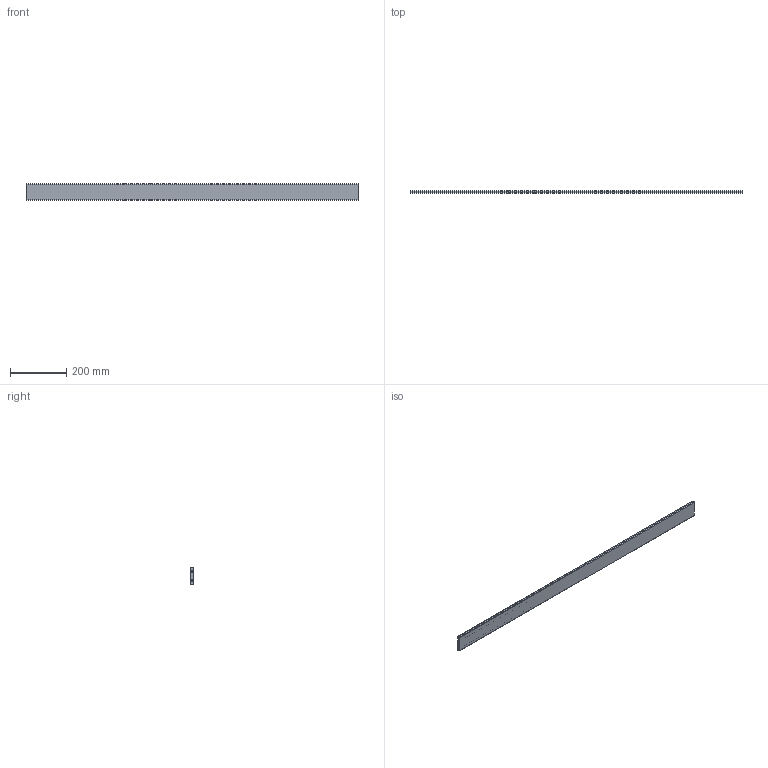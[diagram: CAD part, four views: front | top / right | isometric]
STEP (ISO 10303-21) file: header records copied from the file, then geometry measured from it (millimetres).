
FILE_DESCRIPTION (( 'STEP AP214' ), '1' );
FILE_NAME ('Korpusseitenwand 15-19 - KAB 1327.step', '2016-10-14T06:33:55', ( 'Windows-Benutzer' ), ( '' ), 'SwSTEP 2.0', 'SolidWorks 2015', '' );
FILE_SCHEMA (( 'AUTOMOTIVE_DESIGN' ));
Length unit declared in the file: millimetre
Products named in the file (1): Korpusseitenwand 15-19 - KAB 1327
Bounding box: 1185 x 9.8 x 59.8 mm (x, y, z)
Volume: 627771.3 mm3; surface area: 205127 mm2
Topology: 1 solids, 1 shells, 14 faces, 36 edges, 24 vertices
Faces by surface type: cylinder 8, plane 6
Entity records: 478 total; most frequent: DIRECTION 82, CARTESIAN_POINT 75, ORIENTED_EDGE 72, EDGE_CURVE 36, AXIS2_PLACEMENT_3D 31, VERTEX_POINT 24, LINE 20, VECTOR 20
